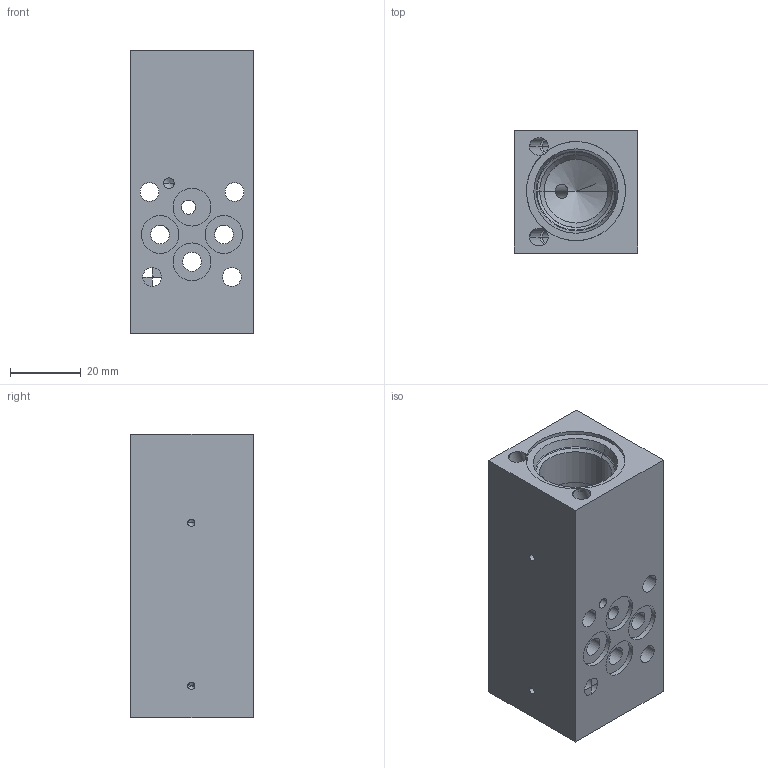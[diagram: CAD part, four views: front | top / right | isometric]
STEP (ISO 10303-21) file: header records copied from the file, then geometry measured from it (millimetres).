
FILE_DESCRIPTION((''),'2;1');
FILE_NAME('225447','2023-10-12T',('l.soukupova'),(''),'PRO/ENGINEER BY PARAMETRIC TECHNOLOGY CORPORATION, 2015440','PRO/ENGINEER BY PARAMETRIC TECHNOLOGY CORPORATION, 2015440','');
FILE_SCHEMA(('AUTOMOTIVE_DESIGN { 1 0 10303 214 1 1 1 1 }'));
Length unit declared in the file: millimetre
Products named in the file (1): 225447
Bounding box: 35 x 34.6 x 80 mm (x, y, z)
Volume: 78137 mm3; surface area: 22233.4 mm2
Topology: 1 solids, 4 shells, 90 faces, 386 edges, 360 vertices
Faces by surface type: cylinder 53, cone 23, plane 14
Entity records: 6430 total; most frequent: CARTESIAN_POINT 1550, DIRECTION 682, PRESENTATION_STYLE_ASSIGNMENT 463, ORIENTED_EDGE 458, STYLED_ITEM 428, CURVE_STYLE 425, AXIS2_PLACEMENT_3D 237, EDGE_CURVE 235
